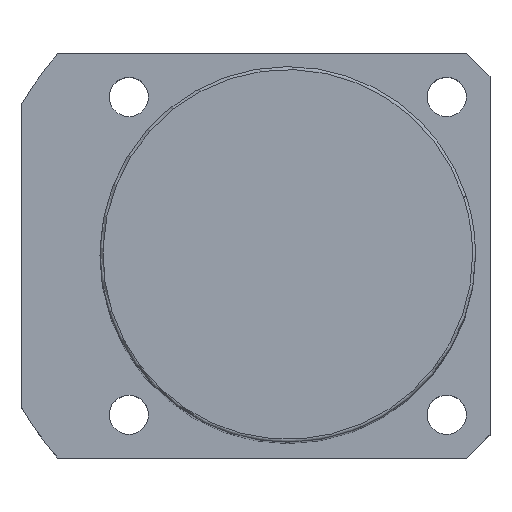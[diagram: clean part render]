
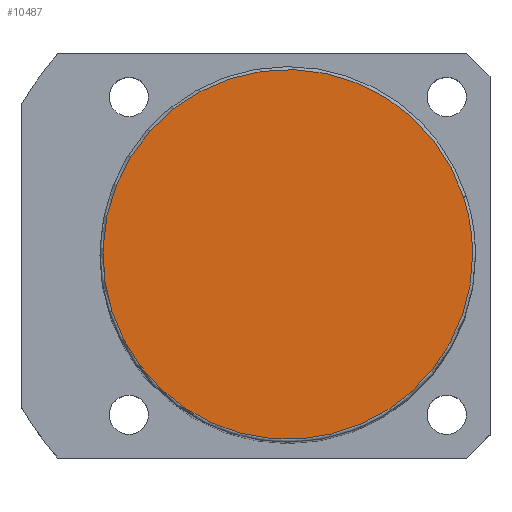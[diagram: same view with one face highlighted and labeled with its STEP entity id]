
A CAD part, top view. The second image highlights one B-rep face of the part: STEP entity #10487.
In plain terms, the highlighted planar face has unit normal (0, 0, 1).
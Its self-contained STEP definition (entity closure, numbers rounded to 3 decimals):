
#10420=CARTESIAN_POINT('',(30.434,9.889,156.0));
#10421=VERTEX_POINT('',#10420);
#10439=CARTESIAN_POINT('',(-30.434,-9.889,156.0));
#10440=VERTEX_POINT('',#10439);
#10448=CARTESIAN_POINT('',(0.0,0.0,156.0));
#10449=DIRECTION('',(0.0,0.0,1.0));
#10450=DIRECTION('',(1.0,0.0,0.0));
#10451=AXIS2_PLACEMENT_3D('',#10448,#10449,#10450);
#10452=CIRCLE('',#10451,32.0);
#10453=EDGE_CURVE('no 4899',#10421,#10440,#10452,.T.);
#10463=CARTESIAN_POINT('',(32.0,0.0,156.0));
#10464=VERTEX_POINT('',#10463);
#10465=CARTESIAN_POINT('',(0.0,0.0,156.0));
#10466=DIRECTION('',(0.0,0.0,1.0));
#10467=DIRECTION('',(1.0,0.0,0.0));
#10468=AXIS2_PLACEMENT_3D('',#10465,#10466,#10467);
#10469=CIRCLE('',#10468,32.0);
#10470=EDGE_CURVE('no 4908',#10464,#10421,#10469,.T.);
#10471=ORIENTED_EDGE('',*,*,#10470,.T.);
#10472=ORIENTED_EDGE('',*,*,#10453,.T.);
#10473=CARTESIAN_POINT('',(0.0,0.0,156.0));
#10474=DIRECTION('',(0.0,0.0,1.0));
#10475=DIRECTION('',(1.0,0.0,0.0));
#10476=AXIS2_PLACEMENT_3D('',#10473,#10474,#10475);
#10477=CIRCLE('',#10476,32.0);
#10478=EDGE_CURVE('no 4914',#10440,#10464,#10477,.T.);
#10479=ORIENTED_EDGE('',*,*,#10478,.T.);
#10480=EDGE_LOOP('',(#10471,#10472,#10479));
#10481=FACE_OUTER_BOUND('',#10480,.T.);
#10482=CARTESIAN_POINT('',(0.0,0.0,156.0));
#10483=DIRECTION('',(0.0,0.0,1.0));
#10484=DIRECTION('',(1.0,0.0,0.0));
#10485=AXIS2_PLACEMENT_3D('',#10482,#10483,#10484);
#10486=PLANE('',#10485);
#10487=ADVANCED_FACE('no 4901',(#10481),#10486,.T.);
